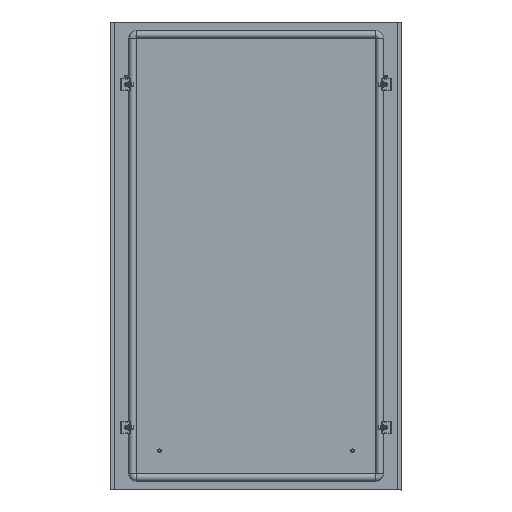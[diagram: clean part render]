
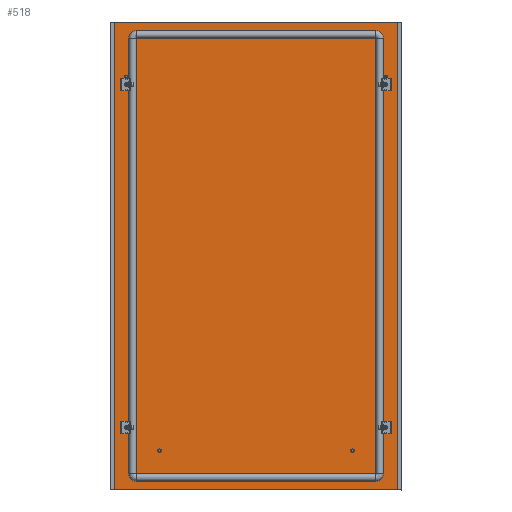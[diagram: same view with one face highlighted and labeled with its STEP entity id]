
A CAD part, top view. The second image highlights one B-rep face of the part: STEP entity #518.
In plain terms, the highlighted planar face has unit normal (0, 0, 1).
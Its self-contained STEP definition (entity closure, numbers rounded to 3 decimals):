
#226 = VERTEX_POINT('',#227);
#227 = CARTESIAN_POINT('',(295.5,-477.5,0.));
#260 = VERTEX_POINT('',#261);
#261 = CARTESIAN_POINT('',(295.5,477.5,0.));
#267 = EDGE_CURVE('',#226,#260,#268,.T.);
#268 = LINE('',#269,#270);
#269 = CARTESIAN_POINT('',(295.5,0.,0.)
  );
#270 = VECTOR('',#271,1.);
#271 = DIRECTION('',(0.,1.,0.));
#360 = EDGE_CURVE('',#226,#361,#363,.T.);
#361 = VERTEX_POINT('',#362);
#362 = CARTESIAN_POINT('',(295.3,-477.5,0.));
#363 = LINE('',#364,#365);
#364 = CARTESIAN_POINT('',(0.,-477.5,0.
    ));
#365 = VECTOR('',#366,1.);
#366 = DIRECTION('',(-1.,0.,0.));
#385 = VERTEX_POINT('',#386);
#386 = CARTESIAN_POINT('',(-295.3,-477.5,
    0.));
#392 = EDGE_CURVE('',#393,#385,#395,.T.);
#393 = VERTEX_POINT('',#394);
#394 = CARTESIAN_POINT('',(-295.5,-477.5,
    0.));
#395 = LINE('',#396,#397);
#396 = CARTESIAN_POINT('',(0.,-477.5,
    0.));
#397 = VECTOR('',#398,1.);
#398 = DIRECTION('',(1.,-0.,-0.));
#415 = VERTEX_POINT('',#416);
#416 = CARTESIAN_POINT('',(-295.5,477.5,0.));
#447 = EDGE_CURVE('',#415,#393,#448,.T.);
#448 = LINE('',#449,#450);
#449 = CARTESIAN_POINT('',(-295.5,0.,
    0.));
#450 = VECTOR('',#451,1.);
#451 = DIRECTION('',(0.,-1.,0.));
#518 = ADVANCED_FACE('',(#519,#585,#605,#625,#636),#647,.F.);
#519 = FACE_BOUND('',#520,.T.);
#520 = EDGE_LOOP('',(#521,#529,#530,#531,#539,#547,#553,#554,#555,#563,
    #571,#579));
#521 = ORIENTED_EDGE('',*,*,#522,.F.);
#522 = EDGE_CURVE('',#415,#523,#525,.T.);
#523 = VERTEX_POINT('',#524);
#524 = CARTESIAN_POINT('',(-295.3,477.5,0.));
#525 = LINE('',#526,#527);
#526 = CARTESIAN_POINT('',(0.,477.5,0.)
  );
#527 = VECTOR('',#528,1.);
#528 = DIRECTION('',(1.,0.,0.));
#529 = ORIENTED_EDGE('',*,*,#447,.T.);
#530 = ORIENTED_EDGE('',*,*,#392,.T.);
#531 = ORIENTED_EDGE('',*,*,#532,.F.);
#532 = EDGE_CURVE('',#533,#385,#535,.T.);
#533 = VERTEX_POINT('',#534);
#534 = CARTESIAN_POINT('',(-295.3,-476.,
    0.));
#535 = LINE('',#536,#537);
#536 = CARTESIAN_POINT('',(-295.3,0.,
    0.));
#537 = VECTOR('',#538,1.);
#538 = DIRECTION('',(0.,-1.,0.));
#539 = ORIENTED_EDGE('',*,*,#540,.T.);
#540 = EDGE_CURVE('',#533,#541,#543,.T.);
#541 = VERTEX_POINT('',#542);
#542 = CARTESIAN_POINT('',(295.3,-476.,
    0.));
#543 = LINE('',#544,#545);
#544 = CARTESIAN_POINT('',(0.,-476.,
    0.));
#545 = VECTOR('',#546,1.);
#546 = DIRECTION('',(1.,-0.,-0.));
#547 = ORIENTED_EDGE('',*,*,#548,.T.);
#548 = EDGE_CURVE('',#541,#361,#549,.T.);
#549 = LINE('',#550,#551);
#550 = CARTESIAN_POINT('',(295.3,-476.,
    0.));
#551 = VECTOR('',#552,1.);
#552 = DIRECTION('',(0.,-1.,0.));
#553 = ORIENTED_EDGE('',*,*,#360,.F.);
#554 = ORIENTED_EDGE('',*,*,#267,.T.);
#555 = ORIENTED_EDGE('',*,*,#556,.T.);
#556 = EDGE_CURVE('',#260,#557,#559,.T.);
#557 = VERTEX_POINT('',#558);
#558 = CARTESIAN_POINT('',(295.3,477.5,0.));
#559 = LINE('',#560,#561);
#560 = CARTESIAN_POINT('',(0.,477.5,0.)
  );
#561 = VECTOR('',#562,1.);
#562 = DIRECTION('',(-1.,0.,0.));
#563 = ORIENTED_EDGE('',*,*,#564,.F.);
#564 = EDGE_CURVE('',#565,#557,#567,.T.);
#565 = VERTEX_POINT('',#566);
#566 = CARTESIAN_POINT('',(295.3,476.,0.));
#567 = LINE('',#568,#569);
#568 = CARTESIAN_POINT('',(295.3,0.,
    0.));
#569 = VECTOR('',#570,1.);
#570 = DIRECTION('',(0.,1.,0.));
#571 = ORIENTED_EDGE('',*,*,#572,.T.);
#572 = EDGE_CURVE('',#565,#573,#575,.T.);
#573 = VERTEX_POINT('',#574);
#574 = CARTESIAN_POINT('',(-295.3,476.,0.));
#575 = LINE('',#576,#577);
#576 = CARTESIAN_POINT('',(0.,476.,0.)
  );
#577 = VECTOR('',#578,1.);
#578 = DIRECTION('',(-1.,0.,0.));
#579 = ORIENTED_EDGE('',*,*,#580,.T.);
#580 = EDGE_CURVE('',#573,#523,#581,.T.);
#581 = LINE('',#582,#583);
#582 = CARTESIAN_POINT('',(-295.3,476.,0.));
#583 = VECTOR('',#584,1.);
#584 = DIRECTION('',(0.,1.,0.));
#585 = FACE_BOUND('',#586,.T.);
#586 = EDGE_LOOP('',(#587,#598));
#587 = ORIENTED_EDGE('',*,*,#588,.F.);
#588 = EDGE_CURVE('',#589,#591,#593,.T.);
#589 = VERTEX_POINT('',#590);
#590 = CARTESIAN_POINT('',(-264.5,354.75,
    0.));
#591 = VERTEX_POINT('',#592);
#592 = CARTESIAN_POINT('',(-264.5,345.25,
    0.));
#593 = CIRCLE('',#594,4.75);
#594 = AXIS2_PLACEMENT_3D('',#595,#596,#597);
#595 = CARTESIAN_POINT('',(-264.5,350.,
    0.));
#596 = DIRECTION('',(0.,0.,1.));
#597 = DIRECTION('',(0.,1.,0.));
#598 = ORIENTED_EDGE('',*,*,#599,.F.);
#599 = EDGE_CURVE('',#591,#589,#600,.T.);
#600 = CIRCLE('',#601,4.75);
#601 = AXIS2_PLACEMENT_3D('',#602,#603,#604);
#602 = CARTESIAN_POINT('',(-264.5,350.,
    0.));
#603 = DIRECTION('',(0.,0.,1.));
#604 = DIRECTION('',(0.,1.,0.));
#605 = FACE_BOUND('',#606,.T.);
#606 = EDGE_LOOP('',(#607,#618));
#607 = ORIENTED_EDGE('',*,*,#608,.F.);
#608 = EDGE_CURVE('',#609,#611,#613,.T.);
#609 = VERTEX_POINT('',#610);
#610 = CARTESIAN_POINT('',(264.5,345.25,
    0.));
#611 = VERTEX_POINT('',#612);
#612 = CARTESIAN_POINT('',(264.5,354.75,
    0.));
#613 = CIRCLE('',#614,4.75);
#614 = AXIS2_PLACEMENT_3D('',#615,#616,#617);
#615 = CARTESIAN_POINT('',(264.5,350.,
    0.));
#616 = DIRECTION('',(0.,0.,1.));
#617 = DIRECTION('',(0.,-1.,0.));
#618 = ORIENTED_EDGE('',*,*,#619,.F.);
#619 = EDGE_CURVE('',#611,#609,#620,.T.);
#620 = CIRCLE('',#621,4.75);
#621 = AXIS2_PLACEMENT_3D('',#622,#623,#624);
#622 = CARTESIAN_POINT('',(264.5,350.,
    0.));
#623 = DIRECTION('',(0.,0.,1.));
#624 = DIRECTION('',(0.,-1.,0.));
#625 = FACE_BOUND('',#626,.T.);
#626 = EDGE_LOOP('',(#627));
#627 = ORIENTED_EDGE('',*,*,#628,.T.);
#628 = EDGE_CURVE('',#629,#629,#631,.T.);
#629 = VERTEX_POINT('',#630);
#630 = CARTESIAN_POINT('',(-264.5,-345.25,
    0.));
#631 = CIRCLE('',#632,4.75);
#632 = AXIS2_PLACEMENT_3D('',#633,#634,#635);
#633 = CARTESIAN_POINT('',(-264.5,-350.,
    0.));
#634 = DIRECTION('',(0.,0.,-1.));
#635 = DIRECTION('',(0.,1.,0.));
#636 = FACE_BOUND('',#637,.T.);
#637 = EDGE_LOOP('',(#638));
#638 = ORIENTED_EDGE('',*,*,#639,.T.);
#639 = EDGE_CURVE('',#640,#640,#642,.T.);
#640 = VERTEX_POINT('',#641);
#641 = CARTESIAN_POINT('',(264.5,-354.75,
    0.));
#642 = CIRCLE('',#643,4.75);
#643 = AXIS2_PLACEMENT_3D('',#644,#645,#646);
#644 = CARTESIAN_POINT('',(264.5,-350.,
    0.));
#645 = DIRECTION('',(-0.,0.,-1.));
#646 = DIRECTION('',(0.,-1.,0.));
#647 = PLANE('',#648);
#648 = AXIS2_PLACEMENT_3D('',#649,#650,#651);
#649 = CARTESIAN_POINT('',(0.,0.,
    0.));
#650 = DIRECTION('',(0.,0.,-1.));
#651 = DIRECTION('',(-1.,0.,0.));
